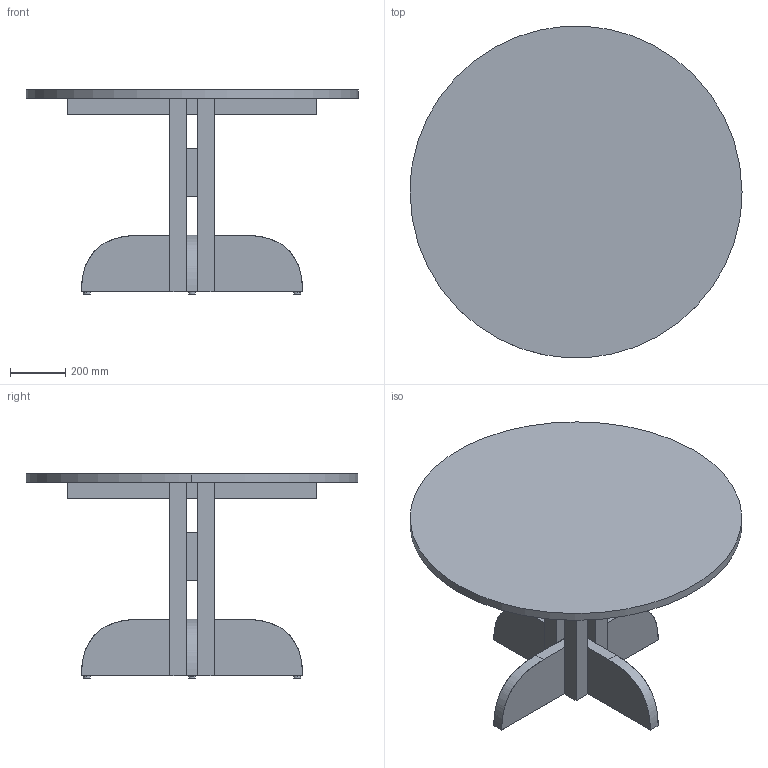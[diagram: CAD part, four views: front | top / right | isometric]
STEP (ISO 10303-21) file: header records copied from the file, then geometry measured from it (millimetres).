
FILE_DESCRIPTION (( 'STEP AP214' ), '1' );
FILE_NAME ('Puffin Table Ø120.STEP', '2026-06-03T12:41:34', ( '' ), ( '' ), 'SwSTEP 2.0', 'SolidWorks 2024', '' );
FILE_SCHEMA (( 'AUTOMOTIVE_DESIGN' ));
Length unit declared in the file: millimetre
Products named in the file (1): Puffin Table Ø120
Bounding box: 1200 x 1198.03 x 737.5 mm (x, y, z)
Volume: 79573763 mm3; surface area: 5470133 mm2
Topology: 17 solids, 17 shells, 127 faces, 267 edges, 178 vertices
Faces by surface type: bspline 127
Entity records: 3426 total; most frequent: CARTESIAN_POINT 1477, ORIENTED_EDGE 534, EDGE_CURVE 267, B_SPLINE_CURVE_WITH_KNOTS 233, VERTEX_POINT 178, EDGE_LOOP 131, FACE_OUTER_BOUND 127, ADVANCED_FACE 127
